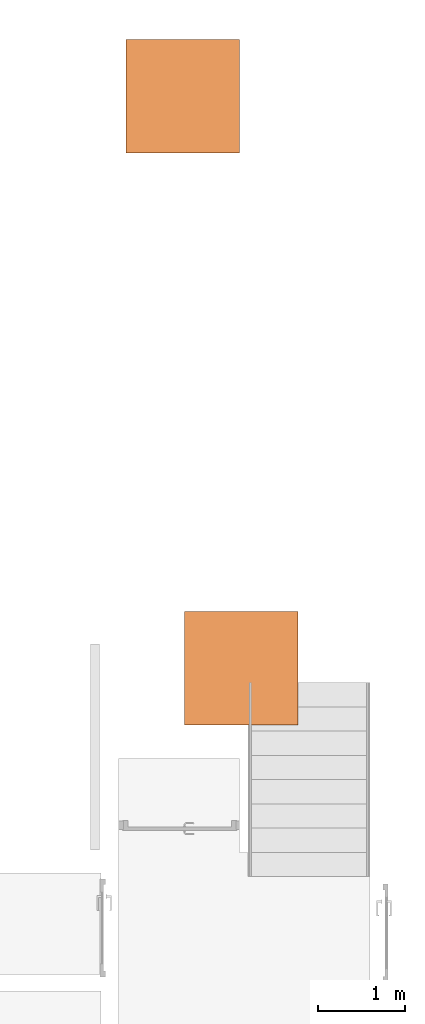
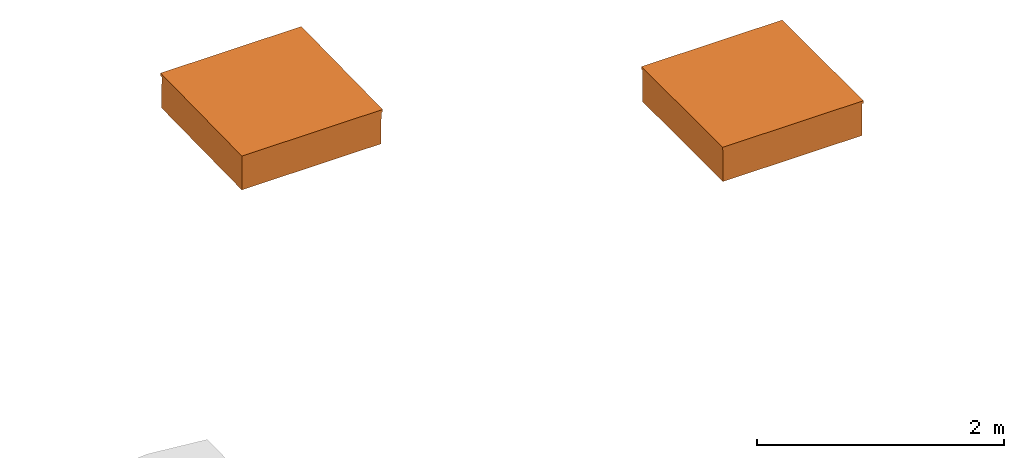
# One storey, part 10 of 10: 2 proxies.
"""IFC2X3 building model written with IfcOpenShell, lengths in metres."""

from ifc_helpers import new_model, entity, si_unit, converted_unit, derived_unit, direction, frame, origin, place, context, subcontext, project, spatial, faceted_brep, source, transform, mapped, material, material_list, type_object, type_shapes, element, save


model = new_model("IFC2X3")

# Units and contexts
model_context = context("Model", 3, precision=1e-05, world=origin(), true_north=direction((6.12303176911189e-17, 1.0)))
body_context = subcontext(model_context, "Body", "Model", "MODEL_VIEW")
ifc_project = project(units=[si_unit("LENGTHUNIT", "METRE"), si_unit("AREAUNIT", "SQUARE_METRE"), si_unit("VOLUMEUNIT", "CUBIC_METRE"), converted_unit("PLANEANGLEUNIT", "DEGREE", entity("IfcRatioMeasure", 0.0174532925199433), si_unit("PLANEANGLEUNIT", "RADIAN"), dimensions=[0, 0, 0, 0, 0, 0, 0]), si_unit("MASSUNIT", "GRAM", prefix="KILO"), derived_unit("MASSDENSITYUNIT", [(si_unit("MASSUNIT", "GRAM", prefix="KILO"), 1), (si_unit("LENGTHUNIT", "METRE"), -3)]), derived_unit("MOMENTOFINERTIAUNIT", [(si_unit("LENGTHUNIT", "METRE"), 4)]), si_unit("TIMEUNIT", "SECOND"), si_unit("FREQUENCYUNIT", "HERTZ"), si_unit("THERMODYNAMICTEMPERATUREUNIT", "DEGREE_CELSIUS"), derived_unit("THERMALTRANSMITTANCEUNIT", [(si_unit("MASSUNIT", "GRAM", prefix="KILO"), 1), (si_unit("THERMODYNAMICTEMPERATUREUNIT", "KELVIN"), -1), (si_unit("TIMEUNIT", "SECOND"), -3)]), derived_unit("VOLUMETRICFLOWRATEUNIT", [(si_unit("LENGTHUNIT", "METRE"), 3), (si_unit("TIMEUNIT", "SECOND"), -1)]), si_unit("ELECTRICCURRENTUNIT", "AMPERE"), si_unit("ELECTRICVOLTAGEUNIT", "VOLT"), si_unit("POWERUNIT", "WATT"), si_unit("FORCEUNIT", "NEWTON", prefix="KILO"), si_unit("ILLUMINANCEUNIT", "LUX"), si_unit("LUMINOUSFLUXUNIT", "LUMEN"), si_unit("LUMINOUSINTENSITYUNIT", "CANDELA"), derived_unit("USERDEFINED", [(si_unit("MASSUNIT", "GRAM", prefix="KILO"), -1), (si_unit("LENGTHUNIT", "METRE"), -2), (si_unit("TIMEUNIT", "SECOND"), 3), (si_unit("LUMINOUSFLUXUNIT", "LUMEN"), 1)]), derived_unit("LINEARVELOCITYUNIT", [(si_unit("LENGTHUNIT", "METRE"), 1), (si_unit("TIMEUNIT", "SECOND"), -1)]), si_unit("PRESSUREUNIT", "PASCAL"), derived_unit("USERDEFINED", [(si_unit("LENGTHUNIT", "METRE"), -2), (si_unit("MASSUNIT", "GRAM", prefix="KILO"), 1), (si_unit("TIMEUNIT", "SECOND"), -2)]), derived_unit("LINEARFORCEUNIT", [(si_unit("MASSUNIT", "GRAM", prefix="KILO"), 1), (si_unit("LENGTHUNIT", "METRE"), 1), (si_unit("TIMEUNIT", "SECOND"), -2), (si_unit("LENGTHUNIT", "METRE"), -1)]), derived_unit("PLANARFORCEUNIT", [(si_unit("MASSUNIT", "GRAM", prefix="KILO"), 1), (si_unit("LENGTHUNIT", "METRE"), 1), (si_unit("TIMEUNIT", "SECOND"), -2), (si_unit("LENGTHUNIT", "METRE"), -2)])], contexts=[model_context])

# Site, building, storey
site_placement = place(None, origin())
site = spatial("IfcSite", under=ifc_project, at=site_placement, Name="Default", CompositionType="ELEMENT")
building_placement = place(site_placement, origin())
building = spatial("IfcBuilding", under=site, at=building_placement, CompositionType="ELEMENT")
storey_placement = place(building_placement, frame((0.0, 0.0, 0.893308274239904)))
storey = spatial("IfcBuildingStorey", under=building, at=storey_placement, Name="Niveau 00 - 02", CompositionType="ELEMENT", Elevation=0.893308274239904)

# Proxies
ifc_material_1 = material(Name="Verre")
ifc_material_2 = material(Name="Métal - Aluminium")
ifc_material_list_1 = material_list([ifc_material_1, ifc_material_2])
ifc_material_list_2 = material_list([ifc_material_2, ifc_material_1])
building_element_proxy_type = type_object("IfcBuildingElementProxyType", Name="Famille 0:Famille 120x120", PredefinedType="NOTDEFINED", material=ifc_material_list_2)
shared_shape = source(origin(), body_context, "Body", "Brep", [
    faceted_brep([(0.624999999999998, -0.625000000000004, 0.175991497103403), (-0.625000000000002, -0.625000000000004, 0.175991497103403), (-0.625000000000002, 0.624999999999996, 0.175991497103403), (0.624999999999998, 0.624999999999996, 0.175991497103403), (0.624999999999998, -0.625000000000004, 0.195154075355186), (0.624999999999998, 0.624999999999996, 0.195154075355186), (-0.625000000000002, 0.624999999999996, 0.195154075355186), (-0.625000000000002, -0.625000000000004, 0.195154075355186)], [[[0, 1, 2, 3]], [[4, 5, 6, 7]], [[5, 4, 0, 3]], [[6, 5, 3, 2]], [[7, 6, 2, 1]], [[4, 7, 1, 0]]]),
    faceted_brep([(-0.625000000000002, -0.625000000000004, 0.195154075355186), (-0.6575, -0.657500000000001, 0.195154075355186), (0.657499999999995, -0.657500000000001, 0.195154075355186), (0.624999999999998, -0.625000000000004, 0.195154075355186), (-0.600000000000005, -0.600000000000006, -0.150000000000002), (-0.600000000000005, -0.600000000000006, 0.175991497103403), (0.6, -0.600000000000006, 0.175991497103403), (0.6, -0.600000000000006, -0.150000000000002), (-0.65, -0.650000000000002, -0.150000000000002), (0.649999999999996, -0.650000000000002, -0.150000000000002), (0.657499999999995, 0.657499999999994, 0.195154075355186), (0.624999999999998, 0.624999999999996, 0.195154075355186), (0.6, 0.599999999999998, 0.175991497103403), (0.6, 0.599999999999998, -0.150000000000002), (0.649999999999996, 0.649999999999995, -0.150000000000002), (-0.6575, 0.657499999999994, 0.195154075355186), (-0.625000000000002, 0.624999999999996, 0.195154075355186), (-0.600000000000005, 0.599999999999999, 0.175991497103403), (-0.600000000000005, 0.599999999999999, -0.150000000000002), (-0.650000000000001, 0.649999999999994, -0.150000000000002), (-0.6575, -0.657500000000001, 0.169999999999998), (-0.65, -0.650000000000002, 0.169999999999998), (0.649999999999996, -0.650000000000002, 0.169999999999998), (0.657499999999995, -0.657500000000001, 0.169999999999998), (-0.625000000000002, -0.625000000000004, 0.175991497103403), (0.624999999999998, -0.625000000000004, 0.175991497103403), (0.649999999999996, 0.649999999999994, 0.169999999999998), (0.657499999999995, 0.657499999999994, 0.169999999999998), (0.624999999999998, 0.624999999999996, 0.175991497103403), (-0.65, 0.649999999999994, 0.169999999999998), (-0.6575, 0.657499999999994, 0.169999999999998), (-0.625000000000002, 0.624999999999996, 0.175991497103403)], [[[0, 1, 2, 3]], [[4, 5, 6, 7]], [[8, 4, 7, 9]], [[3, 2, 10, 11]], [[7, 6, 12, 13]], [[9, 7, 13, 14]], [[11, 10, 15, 16]], [[13, 12, 17, 18]], [[14, 13, 18, 19]], [[16, 15, 1, 0]], [[18, 17, 5, 4]], [[19, 18, 4, 8]], [[20, 21, 22, 23]], [[24, 0, 3, 25]], [[5, 24, 25, 6]], [[23, 22, 26, 27]], [[25, 3, 11, 28]], [[6, 25, 28, 12]], [[27, 26, 29, 30]], [[28, 11, 16, 31]], [[12, 28, 31, 17]], [[30, 29, 21, 20]], [[31, 16, 0, 24]], [[17, 31, 24, 5]], [[21, 8, 9, 22]], [[1, 20, 23, 2]], [[22, 9, 14, 26]], [[2, 23, 27, 10]], [[26, 14, 19, 29]], [[10, 27, 30, 15]], [[29, 19, 8, 21]], [[15, 30, 20, 1]]]),
])
type_shapes(building_element_proxy_type, [shared_shape])
proxy_1_placement = place(storey_placement, frame((-17.3227958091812, 15.3870022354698, 8.90399999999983), z_axis=(0.0, 0.0, 1.0), x_axis=(0.0, 1.0, 0.0)))
element("IfcBuildingElementProxy", 1, at=proxy_1_placement, inside=storey, type_object=building_element_proxy_type, material=ifc_material_list_1, Name="Famille 0:Famille 120x120", ObjectType="Famille 0:Famille 120x120", context=body_context, shape_type="MappedRepresentation", body=[
    mapped(shared_shape, transform((0.0, 0.0, 0.0), scale=1.0)),
])
ifc_material_list_3 = material_list([ifc_material_1, ifc_material_2])
proxy_2_placement = place(storey_placement, frame((-18.0003577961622, 21.996511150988, 5.06017481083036), z_axis=(0.0, -0.0174524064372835, 0.999847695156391), x_axis=(0.0, -0.999847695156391, -0.0174524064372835)))
element("IfcBuildingElementProxy", 2, at=proxy_2_placement, inside=storey, type_object=building_element_proxy_type, material=ifc_material_list_3, Name="Famille 0:Famille 120x120", ObjectType="Famille 0:Famille 120x120", context=body_context, shape_type="MappedRepresentation", body=[
    mapped(shared_shape, transform((0.0, 0.0, 0.0), scale=1.0)),
])

save(model, "model.ifc")
